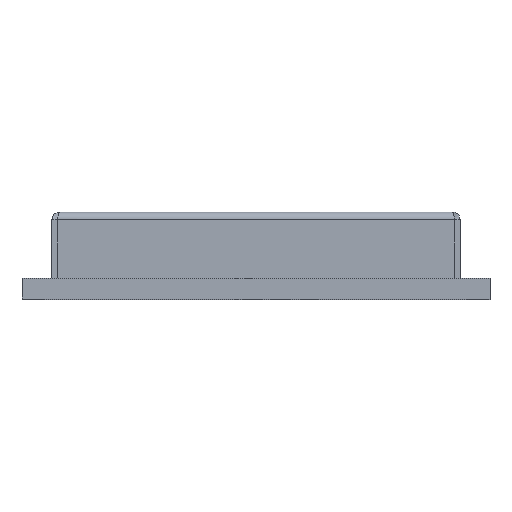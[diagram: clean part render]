
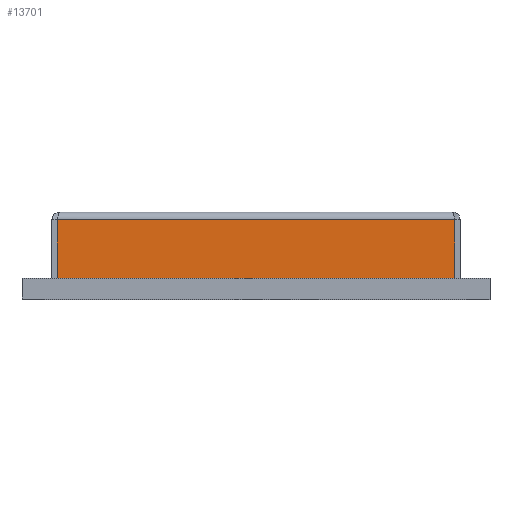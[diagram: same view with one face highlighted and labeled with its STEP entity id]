
A CAD part, top view. The second image highlights one B-rep face of the part: STEP entity #13701.
In plain terms, the highlighted planar face has unit normal (0, 0, 1).
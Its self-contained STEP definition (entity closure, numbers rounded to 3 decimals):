
#424 = VERTEX_POINT ( 'NONE', #5726 ) ;
#827 = CARTESIAN_POINT ( 'NONE',  ( -7.643, 3.05, 9.29 ) ) ;
#1549 = LINE ( 'NONE', #16279, #15589 ) ;
#2440 = CARTESIAN_POINT ( 'NONE',  ( -7.643, 0.8, 9.29 ) ) ;
#2643 = LINE ( 'NONE', #11991, #13167 ) ;
#3192 = CARTESIAN_POINT ( 'NONE',  ( 0., 0., 9.29 ) ) ;
#3718 = EDGE_CURVE ( 'NONE', #17379, #424, #15973, .T. ) ;
#3817 = ORIENTED_EDGE ( 'NONE', *, *, #12363, .F. ) ;
#3900 = DIRECTION ( 'NONE',  ( 0., 1., 0. ) ) ;
#3989 = CARTESIAN_POINT ( 'NONE',  ( 7.643, 0., 9.29 ) ) ;
#4624 = DIRECTION ( 'NONE',  ( 0., 0., 1. ) ) ;
#4684 = ORIENTED_EDGE ( 'NONE', *, *, #11949, .F. ) ;
#5511 = CARTESIAN_POINT ( 'NONE',  ( -7.85, 0.8, 9.29 ) ) ;
#5701 = PLANE ( 'NONE',  #14431 ) ;
#5726 = CARTESIAN_POINT ( 'NONE',  ( 7.643, 3.05, 9.29 ) ) ;
#6144 = VECTOR ( 'NONE', #16236, 1000. ) ;
#7539 = CARTESIAN_POINT ( 'NONE',  ( 7.643, 0.8, 9.29 ) ) ;
#8230 = DIRECTION ( 'NONE',  ( 0., 1., 0. ) ) ;
#8700 = DIRECTION ( 'NONE',  ( 0., -1., 0. ) ) ;
#11263 = VERTEX_POINT ( 'NONE', #827 ) ;
#11949 = EDGE_CURVE ( 'NONE', #17379, #12687, #15001, .T. ) ;
#11991 = CARTESIAN_POINT ( 'NONE',  ( -7.643, 3.15, 9.29 ) ) ;
#12363 = EDGE_CURVE ( 'NONE', #12687, #11263, #2643, .T. ) ;
#12687 = VERTEX_POINT ( 'NONE', #2440 ) ;
#12762 = VECTOR ( 'NONE', #3900, 1000. ) ;
#12879 = ORIENTED_EDGE ( 'NONE', *, *, #3718, .T. ) ;
#13144 = DIRECTION ( 'NONE',  ( -1., 0., 0. ) ) ;
#13167 = VECTOR ( 'NONE', #8230, 1000. ) ;
#13701 = ADVANCED_FACE ( 'NONE', ( #15273 ), #5701, .T. ) ;
#14431 = AXIS2_PLACEMENT_3D ( 'NONE', #3192, #4624, #8700 ) ;
#15001 = LINE ( 'NONE', #5511, #6144 ) ;
#15273 = FACE_OUTER_BOUND ( 'NONE', #17229, .T. ) ;
#15589 = VECTOR ( 'NONE', #13144, 1000. ) ;
#15973 = LINE ( 'NONE', #3989, #12762 ) ;
#16236 = DIRECTION ( 'NONE',  ( -1., 0., 0. ) ) ;
#16279 = CARTESIAN_POINT ( 'NONE',  ( 0., 3.05, 9.29 ) ) ;
#16365 = EDGE_CURVE ( 'NONE', #424, #11263, #1549, .T. ) ;
#16596 = ORIENTED_EDGE ( 'NONE', *, *, #16365, .T. ) ;
#17229 = EDGE_LOOP ( 'NONE', ( #3817, #4684, #12879, #16596 ) ) ;
#17379 = VERTEX_POINT ( 'NONE', #7539 ) ;
